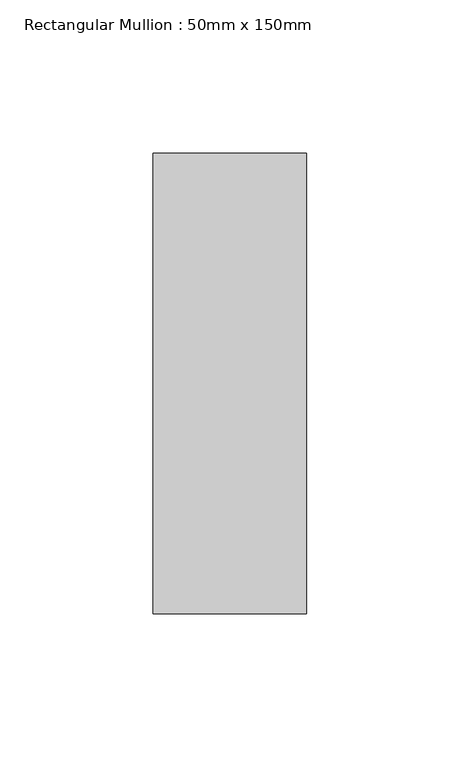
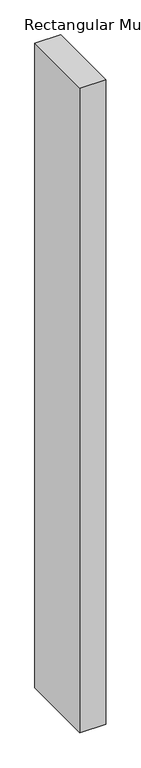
"""IFC4 building model written with IfcOpenShell, lengths in millimetres: member geometry, Rectangular Mullion : 50mm x 150mm."""

from ifc_helpers import new_model, si_unit, frame, origin, place, context, project, spatial, polyline, outline, extrude, source, transform, mapped, element, save


def rectangular_mullion_50mm_x_150mm_2f4df0fd(model_context):
    return source(origin(), model_context, "Body", "SweptSolid", [
        extrude(outline(polyline([(0.0, 75.0), (0.0, -75.0), (-50.0, -75.0), (-50.0, 75.0), (0.0, 75.0)])), frame((0.0, 0.0, -1315.0), z_axis=(0.0, 0.0, 1.0), x_axis=(1.0, 0.0, 0.0)), (0.0, 0.0, 1.0), 1315.0),
    ])


if __name__ == "__main__":
    model = new_model("IFC4")
    model_context = context("Model", 3, world=origin())
    ifc_project = project(units=[si_unit("LENGTHUNIT", "METRE", prefix="MILLI")], contexts=[model_context])
    site = spatial("IfcSite", under=ifc_project)
    building = spatial("IfcBuilding", under=site)
    placement = place(None, origin())
    rectangular_mullion_50mm_x_150mm_shape = rectangular_mullion_50mm_x_150mm_2f4df0fd(model_context)
    element("IfcMember", 1, ObjectType="Rectangular Mullion : 50mm x 150mm", at=placement, inside=building, context=model_context, shape_type="MappedRepresentation", body=[
        mapped(rectangular_mullion_50mm_x_150mm_shape, transform((0.0, 0.0, 0.0), x_axis=(1.0, 0.0, 0.0), y_axis=(0.0, 1.0, 0.0), z_axis=(0.0, 0.0, 1.0))),
    ])
    save(model, "model.ifc")
